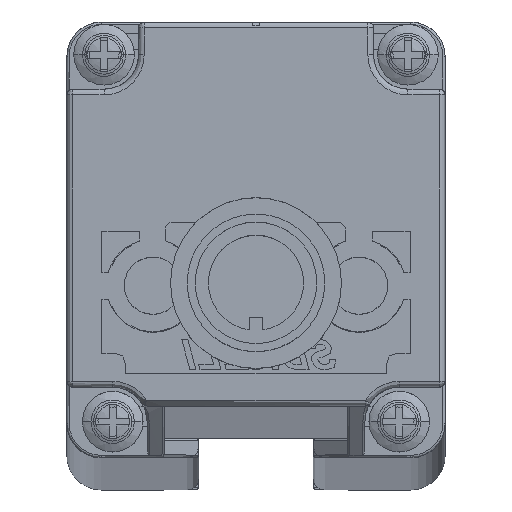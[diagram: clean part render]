
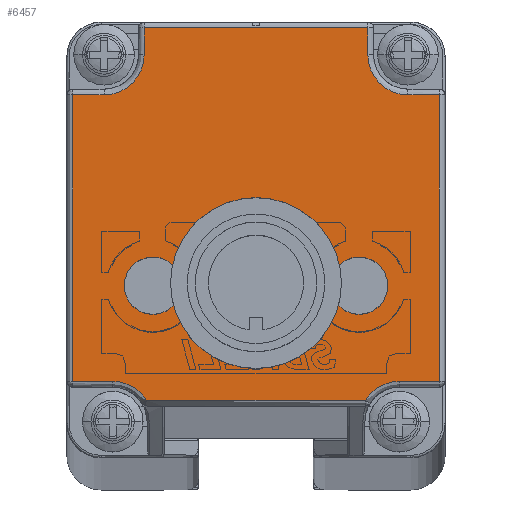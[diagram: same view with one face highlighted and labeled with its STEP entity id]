
A CAD part, top view. The second image highlights one B-rep face of the part: STEP entity #6457.
In plain terms, the highlighted planar face has unit normal (0, 0, 1).
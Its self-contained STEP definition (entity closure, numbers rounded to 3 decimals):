
#2629=CARTESIAN_POINT('',(0.65,-8.054,
1485.276));
#2630=DIRECTION('',(0.,0.,1.));
#2631=DIRECTION('',(1.,0.,0.));
#2632=AXIS2_PLACEMENT_3D('',#2629,#2630,#2631);
#2634=CARTESIAN_POINT('',(0.65,-8.054,
1485.276));
#2635=DIRECTION('',(0.,0.,1.));
#2636=DIRECTION('',(-1.,0.,0.));
#2637=AXIS2_PLACEMENT_3D('',#2634,#2635,#2636);
#2639=CARTESIAN_POINT('',(9.65,-8.055,1485.276));
#2640=DIRECTION('',(0.,0.,1.));
#2641=DIRECTION('',(1.,-0.007,0.));
#2642=AXIS2_PLACEMENT_3D('',#2639,#2640,#2641);
#2644=CARTESIAN_POINT('',(9.65,-8.055,1485.276));
#2645=DIRECTION('',(0.,0.,1.));
#2646=DIRECTION('',(-1.,0.007,0.));
#2647=AXIS2_PLACEMENT_3D('',#2644,#2645,#2646);
#2649=CARTESIAN_POINT('',(-8.35,-8.054,
1485.276));
#2650=DIRECTION('',(0.,0.,1.));
#2651=DIRECTION('',(1.,0.007,0.));
#2652=AXIS2_PLACEMENT_3D('',#2649,#2650,#2651);
#2654=CARTESIAN_POINT('',(-8.35,-8.054,
1485.276));
#2655=DIRECTION('',(0.,0.,1.));
#2656=DIRECTION('',(-1.,-0.007,0.));
#2657=AXIS2_PLACEMENT_3D('',#2654,#2655,#2656);
#2659=CARTESIAN_POINT('',(-11.85,-19.904,
1485.276));
#2660=DIRECTION('',(0.,0.,1.));
#2661=DIRECTION('',(0.849,0.528,0.));
#2662=AXIS2_PLACEMENT_3D('',#2659,#2660,#2661);
#2664=CARTESIAN_POINT('',(-12.6,12.094,1485.276));
#2665=DIRECTION('',(0.,0.,1.));
#2666=DIRECTION('',(0.,-1.,0.));
#2667=AXIS2_PLACEMENT_3D('',#2664,#2665,#2666);
#2669=CARTESIAN_POINT('',(13.9,12.094,1485.276));
#2670=DIRECTION('',(0.,0.,1.));
#2671=DIRECTION('',(-1.,0.,0.));
#2672=AXIS2_PLACEMENT_3D('',#2669,#2670,#2671);
#2674=CARTESIAN_POINT('',(13.15,-19.904,1485.276));
#2675=DIRECTION('',(0.,0.,1.));
#2676=DIRECTION('',(0.,1.,0.));
#2677=AXIS2_PLACEMENT_3D('',#2674,#2675,#2676);
#4196=DIRECTION('',(1.,0.,0.));
#4197=VECTOR('',#4196,19.056);
#4198=CARTESIAN_POINT('',(-8.878,-18.056,
1485.276));
#4199=LINE('',#4198,#4197);
#4744=DIRECTION('',(0.,1.,0.));
#4745=VECTOR('',#4744,2.35);
#4746=CARTESIAN_POINT('',(10.4,12.094,1485.276));
#4747=LINE('',#4746,#4745);
#4767=DIRECTION('',(-1.,0.,0.));
#4768=VECTOR('',#4767,19.5);
#4769=CARTESIAN_POINT('',(10.4,14.444,1485.276));
#4770=LINE('',#4769,#4768);
#4791=DIRECTION('',(0.,-1.,0.));
#4792=VECTOR('',#4791,2.35);
#4793=CARTESIAN_POINT('',(-9.1,14.444,1485.276));
#4794=LINE('',#4793,#4792);
#4818=DIRECTION('',(-1.,0.,0.));
#4819=VECTOR('',#4818,2.75);
#4820=CARTESIAN_POINT('',(-12.6,8.594,1485.276));
#4821=LINE('',#4820,#4819);
#4849=DIRECTION('',(0.,-1.,0.));
#4850=VECTOR('',#4849,24.998);
#4851=CARTESIAN_POINT('',(-15.35,8.594,1485.276));
#4852=LINE('',#4851,#4850);
#4873=DIRECTION('',(1.,0.,0.));
#4874=VECTOR('',#4873,3.5);
#4875=CARTESIAN_POINT('',(-15.35,-16.404,
1485.276));
#4876=LINE('',#4875,#4874);
#4937=DIRECTION('',(-1.,0.,0.));
#4938=VECTOR('',#4937,2.75);
#4939=CARTESIAN_POINT('',(16.65,8.594,1485.276));
#4940=LINE('',#4939,#4938);
#5170=DIRECTION('',(1.,0.,0.));
#5171=VECTOR('',#5170,3.5);
#5172=CARTESIAN_POINT('',(13.15,-16.404,1485.276));
#5173=LINE('',#5172,#5171);
#5201=DIRECTION('',(0.,1.,0.));
#5202=VECTOR('',#5201,24.998);
#5203=CARTESIAN_POINT('',(16.65,-16.404,1485.276));
#5204=LINE('',#5203,#5202);
#5597=CARTESIAN_POINT('',(12.15,-8.072,1485.276));
#5598=VERTEX_POINT('',#5597);
#5599=CARTESIAN_POINT('',(7.15,-8.039,1485.276));
#5600=VERTEX_POINT('',#5599);
#5601=CARTESIAN_POINT('',(-8.878,-18.056,
1485.276));
#5602=CARTESIAN_POINT('',(-11.85,-16.404,
1485.276));
#5603=VERTEX_POINT('',#5601);
#5604=VERTEX_POINT('',#5602);
#5605=CARTESIAN_POINT('',(-15.35,-16.404,
1485.276));
#5606=VERTEX_POINT('',#5605);
#5607=CARTESIAN_POINT('',(-15.35,8.594,1485.276));
#5608=VERTEX_POINT('',#5607);
#5609=CARTESIAN_POINT('',(-12.6,8.594,1485.276));
#5610=VERTEX_POINT('',#5609);
#5611=CARTESIAN_POINT('',(-9.1,12.094,1485.276));
#5612=VERTEX_POINT('',#5611);
#5613=CARTESIAN_POINT('',(-9.1,14.444,1485.276));
#5614=VERTEX_POINT('',#5613);
#5615=CARTESIAN_POINT('',(10.4,14.444,1485.276));
#5616=VERTEX_POINT('',#5615);
#5617=CARTESIAN_POINT('',(10.4,12.094,1485.276));
#5618=VERTEX_POINT('',#5617);
#5619=CARTESIAN_POINT('',(13.9,8.594,1485.276));
#5620=VERTEX_POINT('',#5619);
#5621=CARTESIAN_POINT('',(16.65,8.594,1485.276));
#5622=VERTEX_POINT('',#5621);
#5623=CARTESIAN_POINT('',(16.65,-16.404,1485.276));
#5624=VERTEX_POINT('',#5623);
#5625=CARTESIAN_POINT('',(13.15,-16.404,1485.276));
#5626=VERTEX_POINT('',#5625);
#5627=CARTESIAN_POINT('',(10.178,-18.056,1485.276));
#5628=VERTEX_POINT('',#5627);
#5629=CARTESIAN_POINT('',(-5.85,-8.037,
1485.276));
#5630=CARTESIAN_POINT('',(-10.85,-8.07,
1485.276));
#5631=VERTEX_POINT('',#5629);
#5632=VERTEX_POINT('',#5630);
#5633=CARTESIAN_POINT('',(3.65,-8.054,1485.276));
#5634=CARTESIAN_POINT('',(-2.35,-8.054,
1485.276));
#5635=VERTEX_POINT('',#5633);
#5636=VERTEX_POINT('',#5634);
#6406=CARTESIAN_POINT('',(0.65,0.944,
1485.276));
#6407=DIRECTION('',(0.,0.,1.));
#6408=DIRECTION('',(1.,0.,0.));
#6409=AXIS2_PLACEMENT_3D('',#6406,#6407,#6408);
#6410=PLANE('',#6409);
#6412=ORIENTED_EDGE('',*,*,#6411,.T.);
#6414=ORIENTED_EDGE('',*,*,#6413,.F.);
#6416=ORIENTED_EDGE('',*,*,#6415,.F.);
#6418=ORIENTED_EDGE('',*,*,#6417,.F.);
#6420=ORIENTED_EDGE('',*,*,#6419,.T.);
#6422=ORIENTED_EDGE('',*,*,#6421,.F.);
#6424=ORIENTED_EDGE('',*,*,#6423,.F.);
#6426=ORIENTED_EDGE('',*,*,#6425,.F.);
#6428=ORIENTED_EDGE('',*,*,#6427,.T.);
#6430=ORIENTED_EDGE('',*,*,#6429,.F.);
#6432=ORIENTED_EDGE('',*,*,#6431,.F.);
#6434=ORIENTED_EDGE('',*,*,#6433,.F.);
#6436=ORIENTED_EDGE('',*,*,#6435,.T.);
#6438=ORIENTED_EDGE('',*,*,#6437,.F.);
#6439=EDGE_LOOP('',(#6412,#6414,#6416,#6418,#6420,#6422,#6424,#6426,#6428,#6430,
#6432,#6434,#6436,#6438));
#6440=FACE_OUTER_BOUND('',#6439,.F.);
#6441=ORIENTED_EDGE('',*,*,#6393,.T.);
#6442=ORIENTED_EDGE('',*,*,#6354,.T.);
#6443=EDGE_LOOP('',(#6441,#6442));
#6444=FACE_BOUND('',#6443,.F.);
#6446=ORIENTED_EDGE('',*,*,#6445,.T.);
#6448=ORIENTED_EDGE('',*,*,#6447,.T.);
#6449=EDGE_LOOP('',(#6446,#6448));
#6450=FACE_BOUND('',#6449,.F.);
#6452=ORIENTED_EDGE('',*,*,#6451,.T.);
#6454=ORIENTED_EDGE('',*,*,#6453,.T.);
#6455=EDGE_LOOP('',(#6452,#6454));
#6456=FACE_BOUND('',#6455,.F.);
#2633=CIRCLE('',#2632,3.);
#2638=CIRCLE('',#2637,3.);
#2643=CIRCLE('',#2642,2.5);
#2648=CIRCLE('',#2647,2.5);
#2653=CIRCLE('',#2652,2.5);
#2658=CIRCLE('',#2657,2.5);
#2663=CIRCLE('',#2662,3.5);
#2668=CIRCLE('',#2667,3.5);
#2673=CIRCLE('',#2672,3.5);
#2678=CIRCLE('',#2677,3.5);
#6354=EDGE_CURVE('',#5600,#5598,#2648,.T.);
#6393=EDGE_CURVE('',#5598,#5600,#2643,.T.);
#6411=EDGE_CURVE('',#5603,#5604,#2663,.T.);
#6413=EDGE_CURVE('',#5606,#5604,#4876,.T.);
#6415=EDGE_CURVE('',#5608,#5606,#4852,.T.);
#6417=EDGE_CURVE('',#5610,#5608,#4821,.T.);
#6419=EDGE_CURVE('',#5610,#5612,#2668,.T.);
#6421=EDGE_CURVE('',#5614,#5612,#4794,.T.);
#6423=EDGE_CURVE('',#5616,#5614,#4770,.T.);
#6425=EDGE_CURVE('',#5618,#5616,#4747,.T.);
#6427=EDGE_CURVE('',#5618,#5620,#2673,.T.);
#6429=EDGE_CURVE('',#5622,#5620,#4940,.T.);
#6431=EDGE_CURVE('',#5624,#5622,#5204,.T.);
#6433=EDGE_CURVE('',#5626,#5624,#5173,.T.);
#6435=EDGE_CURVE('',#5626,#5628,#2678,.T.);
#6437=EDGE_CURVE('',#5603,#5628,#4199,.T.);
#6445=EDGE_CURVE('',#5631,#5632,#2653,.T.);
#6447=EDGE_CURVE('',#5632,#5631,#2658,.T.);
#6451=EDGE_CURVE('',#5635,#5636,#2633,.T.);
#6453=EDGE_CURVE('',#5636,#5635,#2638,.T.);
#6457=ADVANCED_FACE('',(#6440,#6444,#6450,#6456),#6410,.T.);
